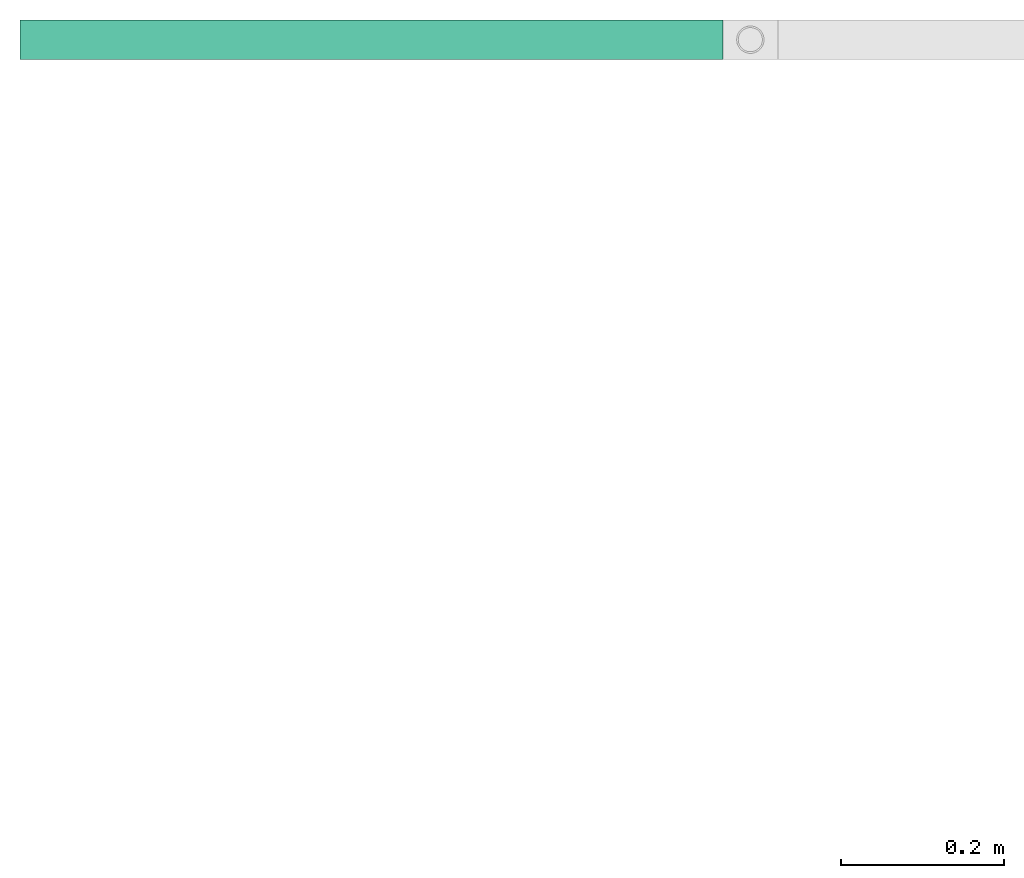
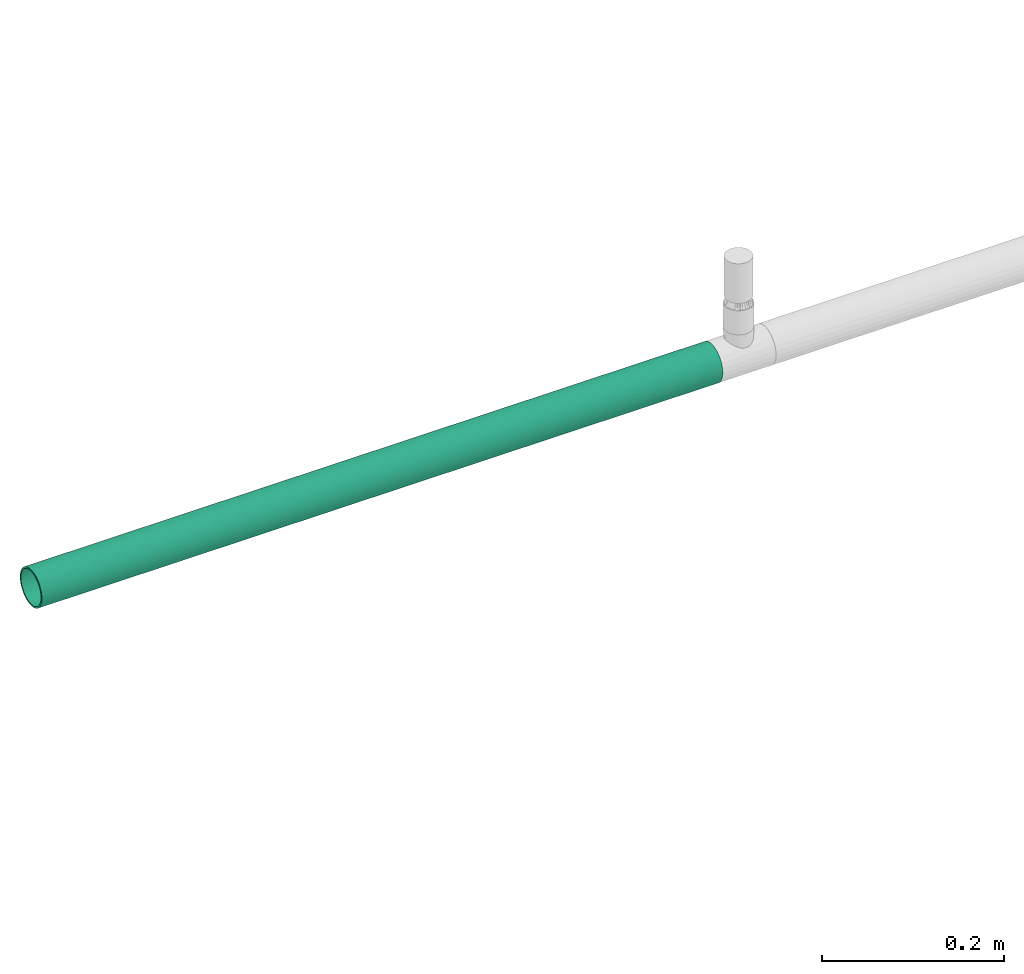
# One storey, part 11 of 14: 1 flow segment.
"""IFC2X3 building model written with IfcOpenShell, lengths in millimetres."""

import ifcopenshell
import ifcopenshell.guid

model = None  # the IFC model being written
_history = None  # IfcOwnerHistory: only IFC2X3 demands one
_inside = {}  # id of a spatial element -> (the spatial element, [elements in it])
_under = {}  # id of a project, library or spatial element -> (it, [spatial elements below it])
_declared = {}  # id of a project -> (the project, [libraries it declares])
_typed = {}  # id of a type object -> (the type object, [elements of that type])
_made_of = {}  # id of a material, layer set ... -> (it, [elements and type objects made of it])


def new_model(schema):
    """Start an empty IFC model of exactly this schema.

    Asked for "IFC4X3", IfcOpenShell would pick the latest addendum, in which some entities
    have other attributes; the version numbers below select the first issue.
    IFC2X3 requires an IfcOwnerHistory on every rooted entity: one is made here for all.
    """
    global model, _history
    if schema == "IFC4X3":
        model = ifcopenshell.file(schema_version=(4, 3, 0, 0))
    else:
        model = ifcopenshell.file(schema=schema)
    _inside.clear()
    _under.clear()
    _declared.clear()
    _typed.clear()
    _made_of.clear()
    _history = None
    if model.schema == "IFC2X3":
        org = make("IfcOrganization", Name="unknown")
        user = make(
            "IfcPersonAndOrganization",
            ThePerson=make("IfcPerson", FamilyName="unknown"),
            TheOrganization=org,
        )
        app = make(
            "IfcApplication",
            ApplicationDeveloper=org,
            Version="unknown",
            ApplicationFullName="unknown",
            ApplicationIdentifier="unknown",
        )
        _history = make(
            "IfcOwnerHistory",
            OwningUser=user,
            OwningApplication=app,
            ChangeAction="ADDED",
            CreationDate=0,
        )
    return model


def make(cls, **values):
    """One entity of the class cls with the attributes given. An attribute that is None is left unset."""
    return model.create_entity(
        cls, **{name: value for name, value in values.items() if value is not None}
    )


def entity(cls, *values):
    """Any entity or typed value of the class cls, its attributes in the order of the schema. None: left unset."""
    e = model.create_entity(cls)
    for i, value in enumerate(values):
        if value is not None:
            e[i] = value
    return e


def rooted(cls, **values):
    """An entity with a GlobalId (a new one), such as an element, a storey or a relation."""
    return make(cls, GlobalId=ifcopenshell.guid.new(), OwnerHistory=_history, **values)


def si_unit(unit_type, name, prefix=None):
    """IfcSIUnit, for example si_unit("LENGTHUNIT", "METRE", prefix="MILLI")."""
    return make("IfcSIUnit", UnitType=unit_type, Prefix=prefix, Name=name)


def converted_unit(unit_type, name, factor, base, dimensions=None, offset=None):
    """IfcConversionBasedUnit, such as the inch: factor (a typed value) times the base unit."""
    return make(
        "IfcConversionBasedUnit"
        if offset is None
        else "IfcConversionBasedUnitWithOffset",
        ConversionOffset=offset,
        Dimensions=None
        if dimensions is None
        else entity("IfcDimensionalExponents", *dimensions),
        UnitType=unit_type,
        Name=name,
        ConversionFactor=make(
            "IfcMeasureWithUnit", ValueComponent=factor, UnitComponent=base
        ),
    )


def derived_unit(unit_type, elements):
    """IfcDerivedUnit: a product of units, each with its exponent."""
    return make(
        "IfcDerivedUnit",
        Elements=[
            make("IfcDerivedUnitElement", Unit=unit, Exponent=power)
            for unit, power in elements
        ],
        UnitType=unit_type,
    )


def assignment(units):
    """IfcUnitAssignment: the units of a project."""
    return None if units is None else make("IfcUnitAssignment", Units=units)


def point(xyz):
    """IfcCartesianPoint."""
    return None if xyz is None else make("IfcCartesianPoint", Coordinates=xyz)


def direction(xyz):
    """IfcDirection."""
    return None if xyz is None else make("IfcDirection", DirectionRatios=xyz)


def frame(location, z_axis=None, x_axis=None):
    """IfcAxis2Placement3D, a coordinate frame: its origin and axes. An axis left out is left unset."""
    return make(
        "IfcAxis2Placement3D",
        Location=point(location),
        Axis=direction(z_axis),
        RefDirection=direction(x_axis),
    )


def place(relative_to, where):
    """IfcLocalPlacement: puts the frame where relative to a parent placement (None: the world)."""
    return make(
        "IfcLocalPlacement", PlacementRelTo=relative_to, RelativePlacement=where
    )


def context(
    kind, dimensions, precision=None, world=None, true_north=None, identifier=None
):
    """IfcGeometricRepresentationContext, for example the 3D "Model" context."""
    return make(
        "IfcGeometricRepresentationContext",
        ContextIdentifier=identifier,
        ContextType=kind,
        CoordinateSpaceDimension=dimensions,
        Precision=precision,
        WorldCoordinateSystem=world,
        TrueNorth=true_north,
    )


def subcontext(parent, identifier, kind, view, scale=None):
    """IfcGeometricRepresentationSubContext, for example "Body" below "Model"."""
    return make(
        "IfcGeometricRepresentationSubContext",
        ContextIdentifier=identifier,
        ContextType=kind,
        ParentContext=parent,
        TargetScale=scale,
        TargetView=view,
    )


def project(units=None, contexts=None):
    """IfcProject with its units and contexts."""
    return rooted(
        "IfcProject",
        Name="project",
        RepresentationContexts=contexts,
        UnitsInContext=assignment(units),
    )


def spatial(cls, under=None, at=None, **own):
    """A site, building, storey or space (cls), placed at a placement, below another one or the project."""
    s = rooted(cls, ObjectPlacement=at, **own)
    if under is not None:
        _under.setdefault(under.id(), (under, []))[1].append(s)
    return s


def faces_of(points, faces, orient=None, outer=None):
    """IfcFace entities. A face is a list of loops; a loop is a list of indices into points, from 0.

    orient and outer hold one flag for each loop. By default every Orientation is true, the
    first loop of a face is its IfcFaceOuterBound and the others are IfcFaceBound.
    """
    made = []
    for i, loops in enumerate(faces):
        bounds = []
        for j, loop in enumerate(loops):
            is_outer = j == 0 if outer is None else outer[i][j]
            bounds.append(
                make(
                    "IfcFaceOuterBound" if is_outer else "IfcFaceBound",
                    Bound=make("IfcPolyLoop", Polygon=[points[k] for k in loop]),
                    Orientation=True if orient is None else orient[i][j],
                )
            )
        made.append(make("IfcFace", Bounds=bounds))
    return made


def faceted_brep(points, faces, orient=None, outer=None, voids=None):
    """IfcFacetedBrep: a solid bounded by flat faces; with voids (closed shells), ...WithVoids."""
    shared = [point(p) for p in points]
    hull = make("IfcClosedShell", CfsFaces=faces_of(shared, faces, orient, outer))
    if voids is None:
        return make("IfcFacetedBrep", Outer=hull)
    return make(
        "IfcFacetedBrepWithVoids",
        Outer=hull,
        Voids=[
            make(cls, CfsFaces=faces_of(shared, fs, o, b)) for cls, fs, o, b in voids
        ],
    )


def shape(context_of_items, identifier, shape_type, items):
    """IfcShapeRepresentation: the items that make up one representation, for example the "Body"."""
    return make(
        "IfcShapeRepresentation",
        ContextOfItems=context_of_items,
        RepresentationIdentifier=identifier,
        RepresentationType=shape_type,
        Items=items,
    )


def made_of(thing, what):
    """Note that an element or type object is made of a material, layer set ...; save() writes the relation."""
    if what is not None:
        _made_of.setdefault(what.id(), (what, []))[1].append(thing)
    return thing


def type_object(cls, material=None, **own):
    """A type object (cls), such as IfcWallType, which elements share."""
    return made_of(rooted(cls, **own), material)


def element(
    cls,
    number,
    at=None,
    inside=None,
    cuts=None,
    type_object=None,
    material=None,
    context=None,
    identifier="Body",
    shape_type=None,
    held_by="IfcProductDefinitionShape",
    body=None,
    shapes=None,
    **own,
):
    """One element of the class cls, such as IfcWall. Its Tag is "e" and its number.

    at: its placement. inside: the storey or other place that contains it. cuts: it is an
    opening in that element (IfcRelVoidsElement). A single representation is given by context,
    identifier, shape_type and body (its items); several are given by shapes. held_by: the class
    of the entity that holds the representations. save() writes the other relations.
    """
    e = rooted(cls, Tag="e%d" % number, ObjectPlacement=at, **own)
    if body is not None:
        shapes = [shape(context, identifier, shape_type, body)]
    if shapes is not None:
        e.Representation = make(held_by, Representations=shapes)
    if inside is not None:
        _inside.setdefault(inside.id(), (inside, []))[1].append(e)
    if cuts is not None:
        rooted(
            "IfcRelVoidsElement", RelatingBuildingElement=cuts, RelatedOpeningElement=e
        )
    if type_object is not None:
        _typed.setdefault(type_object.id(), (type_object, []))[1].append(e)
    return made_of(e, material)


def aggregate(whole, parts):
    """IfcRelAggregates: a whole, such as a stair, and the parts it consists of."""
    return rooted("IfcRelAggregates", RelatingObject=whole, RelatedObjects=parts)


def save(model, path):
    """Write the relations noted so far, then the file.

    IfcRelAggregates (storeys below a building ...), IfcRelContainedInSpatialStructure (elements
    in a storey), IfcRelDefinesByType, IfcRelAssociatesMaterial and IfcRelDeclares: one each for
    every whole, place, type object, material and project.
    """
    for whole, parts in _under.values():
        aggregate(whole, parts)
    for where, things in _inside.values():
        rooted(
            "IfcRelContainedInSpatialStructure",
            RelatedElements=things,
            RelatingStructure=where,
        )
    for kind, things in _typed.values():
        rooted("IfcRelDefinesByType", RelatedObjects=things, RelatingType=kind)
    for what, things in _made_of.values():
        rooted("IfcRelAssociatesMaterial", RelatedObjects=things, RelatingMaterial=what)
    for by, libraries in _declared.values():
        rooted("IfcRelDeclares", RelatingContext=by, RelatedDefinitions=libraries)
    model.write(path)


model = new_model("IFC2X3")

# Units and contexts
model_context = context("Model", 3, precision=0.01, world=frame((0.0, 4.29681676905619e-09, 0.0)), true_north=direction((4.01073788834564e-13, 1.0)))
plan_context = context("Plan", 3, precision=0.01, world=frame((0.0, 4.29681676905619e-09, 0.0)), true_north=direction((4.01073788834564e-13, 1.0)))
body_context = subcontext(model_context, "Body", "Model", "MODEL_VIEW")
ifc_project = project(units=[converted_unit("PLANEANGLEUNIT", "DEGREE", entity("IfcPositiveLengthMeasure", 0.0174532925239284), si_unit("PLANEANGLEUNIT", "RADIAN"), dimensions=[0, 0, 0, 0, 0, 0, 0]), si_unit("AREAUNIT", "SQUARE_METRE"), si_unit("LENGTHUNIT", "METRE", prefix="MILLI"), si_unit("MASSUNIT", "GRAM", prefix="KILO"), si_unit("POWERUNIT", "WATT"), si_unit("PRESSUREUNIT", "PASCAL", prefix="KILO"), si_unit("FORCEUNIT", "NEWTON", prefix="KILO"), si_unit("ELECTRICVOLTAGEUNIT", "VOLT"), si_unit("ELECTRICCURRENTUNIT", "AMPERE"), si_unit("THERMODYNAMICTEMPERATUREUNIT", "DEGREE_CELSIUS"), si_unit("TIMEUNIT", "SECOND"), si_unit("VOLUMEUNIT", "CUBIC_METRE"), derived_unit("LINEARVELOCITYUNIT", [(si_unit("LENGTHUNIT", "METRE"), 1), (si_unit("TIMEUNIT", "SECOND"), -1)]), derived_unit("VOLUMETRICFLOWRATEUNIT", [(si_unit("VOLUMEUNIT", "CUBIC_METRE"), 1), (si_unit("TIMEUNIT", "SECOND"), -1)]), derived_unit("THERMALTRANSMITTANCEUNIT", [(si_unit("POWERUNIT", "WATT"), 1), (si_unit("THERMODYNAMICTEMPERATUREUNIT", "KELVIN"), -1), (si_unit("AREAUNIT", "SQUARE_METRE"), -1)]), derived_unit("SOUNDPRESSUREUNIT", [(si_unit("PRESSUREUNIT", "PASCAL"), 1)])], contexts=[model_context, plan_context])

# Site, building, storey
site_placement = place(None, frame((0.0, -4.29681676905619e-09, 0.0), z_axis=(0.0, 0.0, 1.0), x_axis=(1.0, 0.0, 0.0)))
site = spatial("IfcSite", under=ifc_project, at=site_placement, CompositionType="ELEMENT")
building_placement = place(site_placement, frame((0.0, 4.29681676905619e-09, 0.0), z_axis=(0.0, 0.0, 1.0), x_axis=(1.0, 0.0, 0.0)))
building = spatial("IfcBuilding", under=site, at=building_placement, Name="mc-building", CompositionType="ELEMENT")
storey_placement = place(building_placement, frame((0.0, 0.0, 204000.0), z_axis=(0.0, 0.0, 1.0), x_axis=(1.0, 0.0, 0.0)))
storey = spatial("IfcBuildingStorey", under=building, at=storey_placement, Name="Nivå D", CompositionType="ELEMENT", Elevation=204000.0)

# Flow segment
pipe_segment_type = type_object("IfcPipeSegmentType", Name="Stålrør normaltykke", PredefinedType="RIGIDSEGMENT")
flow_segment_placement = place(storey_placement, frame((582966.2, 576802.46783, 6050.0), z_axis=(0.0, 0.0, 1.0), x_axis=(-1.0, 0.0, 0.0)))
element("IfcFlowSegment", 1, at=flow_segment_placement, inside=storey, type_object=pipe_segment_type, Name="Stålrør normaltykke", context=body_context, shape_type="Brep", body=[
    faceted_brep([(864.480265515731, 22.1, 0.0), (864.480265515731, 21.7642513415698, -3.83762472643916), (0.0, 21.7642513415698, -3.83762472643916), (0.0, 22.1, 0.0), (864.480265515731, 20.7672069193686, -7.5586451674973), (0.0, 20.7672069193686, -7.5586451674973), (864.480265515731, 19.1391614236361, -11.05), (0.0, 19.1391614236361, -11.05), (864.480265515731, 16.9295821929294, -14.2056061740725), (0.0, 16.9295821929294, -14.2056061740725), (864.480265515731, 14.2056061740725, -16.9295821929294), (0.0, 14.2056061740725, -16.9295821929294), (864.480265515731, 11.05, -19.1391614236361), (0.0, 11.05, -19.1391614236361), (864.480265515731, 7.55864516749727, -20.7672069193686), (0.0, 7.55864516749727, -20.7672069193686), (864.480265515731, 3.83762472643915, -21.7642513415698), (0.0, 3.83762472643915, -21.7642513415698), (864.480265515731, -4.05970413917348e-15, -22.1), (0.0, -4.05970413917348e-15, -22.1), (864.480265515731, -3.83762472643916, -21.7642513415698), (0.0, -3.83762472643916, -21.7642513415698), (864.480265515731, -7.55864516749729, -20.7672069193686), (0.0, -7.55864516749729, -20.7672069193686), (864.480265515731, -11.05, -19.1391614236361), (0.0, -11.05, -19.1391614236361), (864.480265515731, -14.2056061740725, -16.9295821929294), (0.0, -14.2056061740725, -16.9295821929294), (864.480265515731, -16.9295821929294, -14.2056061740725), (0.0, -16.9295821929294, -14.2056061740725), (864.480265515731, -19.1391614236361, -11.05), (0.0, -19.1391614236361, -11.05), (864.480265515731, -20.7672069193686, -7.55864516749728), (0.0, -20.7672069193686, -7.55864516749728), (864.480265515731, -21.7642513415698, -3.83762472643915), (0.0, -21.7642513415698, -3.83762472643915), (864.480265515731, -22.1, 2.70646942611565e-15), (0.0, -22.1, 2.70646942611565e-15), (864.480265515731, -21.7642513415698, 3.83762472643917), (0.0, -21.7642513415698, 3.83762472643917), (864.480265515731, -20.7672069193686, 7.55864516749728), (0.0, -20.7672069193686, 7.55864516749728), (864.480265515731, -19.1391614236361, 11.05), (0.0, -19.1391614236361, 11.05), (864.480265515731, -16.9295821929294, 14.2056061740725), (0.0, -16.9295821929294, 14.2056061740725), (864.480265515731, -14.2056061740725, 16.9295821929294), (0.0, -14.2056061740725, 16.9295821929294), (864.480265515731, -11.05, 19.1391614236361), (0.0, -11.05, 19.1391614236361), (864.480265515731, -7.55864516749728, 20.7672069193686), (0.0, -7.55864516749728, 20.7672069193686), (864.480265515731, -3.83762472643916, 21.7642513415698), (0.0, -3.83762472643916, 21.7642513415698), (864.480265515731, 1.35323471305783e-15, 22.1), (0.0, 1.35323471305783e-15, 22.1), (864.480265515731, 3.83762472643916, 21.7642513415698), (0.0, 3.83762472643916, 21.7642513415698), (864.480265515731, 7.55864516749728, 20.7672069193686), (0.0, 7.55864516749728, 20.7672069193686), (864.480265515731, 11.05, 19.1391614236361), (0.0, 11.05, 19.1391614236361), (864.480265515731, 14.2056061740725, 16.9295821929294), (0.0, 14.2056061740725, 16.9295821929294), (864.480265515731, 16.9295821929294, 14.2056061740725), (0.0, 16.9295821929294, 14.2056061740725), (864.480265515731, 19.1391614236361, 11.05), (0.0, 19.1391614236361, 11.05), (864.480265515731, 20.7672069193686, 7.55864516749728), (0.0, 20.7672069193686, 7.55864516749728), (864.480265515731, 21.7642513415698, 3.83762472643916), (0.0, 21.7642513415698, 3.83762472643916), (864.480265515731, 23.7338668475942, -4.18492108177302), (864.480265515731, 24.1, 0.0), (0.0, 24.1, 0.0), (0.0, 23.7338668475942, -4.18492108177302), (864.480265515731, 23.7338668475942, 4.18492108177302), (0.0, 23.7338668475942, 4.18492108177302), (864.480265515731, 22.6465921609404, 8.24268545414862), (0.0, 22.6465921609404, 8.24268545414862), (864.480265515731, 20.871212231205, 12.05), (0.0, 20.871212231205, 12.05), (864.480265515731, 18.4616710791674, 15.4911813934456), (0.0, 18.4616710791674, 15.4911813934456), (864.480265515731, 15.4911813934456, 18.4616710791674), (0.0, 15.4911813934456, 18.4616710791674), (864.480265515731, 12.05, 20.871212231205), (0.0, 12.05, 20.871212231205), (864.480265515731, 8.24268545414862, 22.6465921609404), (0.0, 8.24268545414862, 22.6465921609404), (864.480265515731, 4.18492108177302, 23.7338668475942), (0.0, 4.18492108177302, 23.7338668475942), (864.480265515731, 1.47569939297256e-15, 24.1), (0.0, 1.47569939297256e-15, 24.1), (864.480265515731, -4.18492108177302, 23.7338668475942), (0.0, -4.18492108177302, 23.7338668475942), (864.480265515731, -8.24268545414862, 22.6465921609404), (0.0, -8.24268545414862, 22.6465921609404), (864.480265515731, -12.05, 20.871212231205), (0.0, -12.05, 20.871212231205), (864.480265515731, -15.4911813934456, 18.4616710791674), (0.0, -15.4911813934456, 18.4616710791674), (864.480265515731, -18.4616710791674, 15.4911813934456), (0.0, -18.4616710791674, 15.4911813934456), (864.480265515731, -20.871212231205, 12.05), (0.0, -20.871212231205, 12.05), (864.480265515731, -22.6465921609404, 8.24268545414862), (0.0, -22.6465921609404, 8.24268545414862), (864.480265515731, -23.7338668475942, 4.18492108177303), (0.0, -23.7338668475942, 4.18492108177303), (864.480265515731, -24.1, 2.95139878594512e-15), (0.0, -24.1, 2.95139878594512e-15), (864.480265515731, -23.7338668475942, -4.18492108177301), (0.0, -23.7338668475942, -4.18492108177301), (864.480265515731, -22.6465921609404, -8.24268545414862), (0.0, -22.6465921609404, -8.24268545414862), (864.480265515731, -20.871212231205, -12.05), (0.0, -20.871212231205, -12.05), (864.480265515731, -18.4616710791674, -15.4911813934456), (0.0, -18.4616710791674, -15.4911813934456), (864.480265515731, -15.4911813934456, -18.4616710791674), (0.0, -15.4911813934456, -18.4616710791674), (864.480265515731, -12.05, -20.871212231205), (0.0, -12.05, -20.871212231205), (864.480265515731, -8.24268545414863, -22.6465921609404), (0.0, -8.24268545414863, -22.6465921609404), (864.480265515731, -4.18492108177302, -23.7338668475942), (0.0, -4.18492108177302, -23.7338668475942), (864.480265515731, -4.42709817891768e-15, -24.1), (0.0, -4.42709817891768e-15, -24.1), (864.480265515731, 4.18492108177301, -23.7338668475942), (0.0, 4.18492108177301, -23.7338668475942), (864.480265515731, 8.2426854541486, -22.6465921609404), (0.0, 8.2426854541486, -22.6465921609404), (864.480265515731, 12.05, -20.871212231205), (0.0, 12.05, -20.871212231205), (864.480265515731, 15.4911813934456, -18.4616710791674), (0.0, 15.4911813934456, -18.4616710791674), (864.480265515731, 18.4616710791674, -15.4911813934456), (0.0, 18.4616710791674, -15.4911813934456), (864.480265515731, 20.871212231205, -12.05), (0.0, 20.871212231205, -12.05), (864.480265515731, 22.6465921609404, -8.24268545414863), (0.0, 22.6465921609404, -8.24268545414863)], [[[0, 1, 2, 3]], [[1, 4, 5, 2]], [[4, 6, 7, 5]], [[6, 8, 9, 7]], [[8, 10, 11, 9]], [[10, 12, 13, 11]], [[12, 14, 15, 13]], [[14, 16, 17, 15]], [[16, 18, 19, 17]], [[18, 20, 21, 19]], [[20, 22, 23, 21]], [[22, 24, 25, 23]], [[24, 26, 27, 25]], [[26, 28, 29, 27]], [[28, 30, 31, 29]], [[30, 32, 33, 31]], [[32, 34, 35, 33]], [[34, 36, 37, 35]], [[36, 38, 39, 37]], [[38, 40, 41, 39]], [[40, 42, 43, 41]], [[42, 44, 45, 43]], [[44, 46, 47, 45]], [[46, 48, 49, 47]], [[48, 50, 51, 49]], [[50, 52, 53, 51]], [[52, 54, 55, 53]], [[54, 56, 57, 55]], [[56, 58, 59, 57]], [[58, 60, 61, 59]], [[60, 62, 63, 61]], [[62, 64, 65, 63]], [[64, 66, 67, 65]], [[66, 68, 69, 67]], [[68, 70, 71, 69]], [[70, 0, 3, 71]], [[72, 73, 74, 75]], [[73, 76, 77, 74]], [[76, 78, 79, 77]], [[78, 80, 81, 79]], [[80, 82, 83, 81]], [[82, 84, 85, 83]], [[84, 86, 87, 85]], [[86, 88, 89, 87]], [[88, 90, 91, 89]], [[90, 92, 93, 91]], [[92, 94, 95, 93]], [[94, 96, 97, 95]], [[96, 98, 99, 97]], [[98, 100, 101, 99]], [[100, 102, 103, 101]], [[102, 104, 105, 103]], [[104, 106, 107, 105]], [[106, 108, 109, 107]], [[108, 110, 111, 109]], [[110, 112, 113, 111]], [[112, 114, 115, 113]], [[114, 116, 117, 115]], [[116, 118, 119, 117]], [[118, 120, 121, 119]], [[120, 122, 123, 121]], [[122, 124, 125, 123]], [[124, 126, 127, 125]], [[126, 128, 129, 127]], [[128, 130, 131, 129]], [[130, 132, 133, 131]], [[132, 134, 135, 133]], [[134, 136, 137, 135]], [[136, 138, 139, 137]], [[138, 140, 141, 139]], [[140, 142, 143, 141]], [[142, 72, 75, 143]], [[75, 74, 77, 79, 81, 83, 85, 87, 89, 91, 93, 95, 97, 99, 101, 103, 105, 107, 109, 111, 113, 115, 117, 119, 121, 123, 125, 127, 129, 131, 133, 135, 137, 139, 141, 143], [3, 2, 5, 7, 9, 11, 13, 15, 17, 19, 21, 23, 25, 27, 29, 31, 33, 35, 37, 39, 41, 43, 45, 47, 49, 51, 53, 55, 57, 59, 61, 63, 65, 67, 69, 71]], [[142, 140, 138, 136, 134, 132, 130, 128, 126, 124, 122, 120, 118, 116, 114, 112, 110, 108, 106, 104, 102, 100, 98, 96, 94, 92, 90, 88, 86, 84, 82, 80, 78, 76, 73, 72], [70, 68, 66, 64, 62, 60, 58, 56, 54, 52, 50, 48, 46, 44, 42, 40, 38, 36, 34, 32, 30, 28, 26, 24, 22, 20, 18, 16, 14, 12, 10, 8, 6, 4, 1, 0]]], orient=[[False], [False], [False], [False], [False], [False], [False], [False], [False], [False], [False], [False], [False], [False], [False], [False], [False], [False], [False], [False], [False], [False], [False], [False], [False], [False], [False], [False], [False], [False], [False], [False], [False], [False], [False], [False], [False], [False], [False], [False], [False], [False], [False], [False], [False], [False], [False], [False], [False], [False], [False], [False], [False], [False], [False], [False], [False], [False], [False], [False], [False], [False], [False], [False], [False], [False], [False], [False], [False], [False], [False], [False], [False, False], [False, False]]),
])

save(model, "model.ifc")
